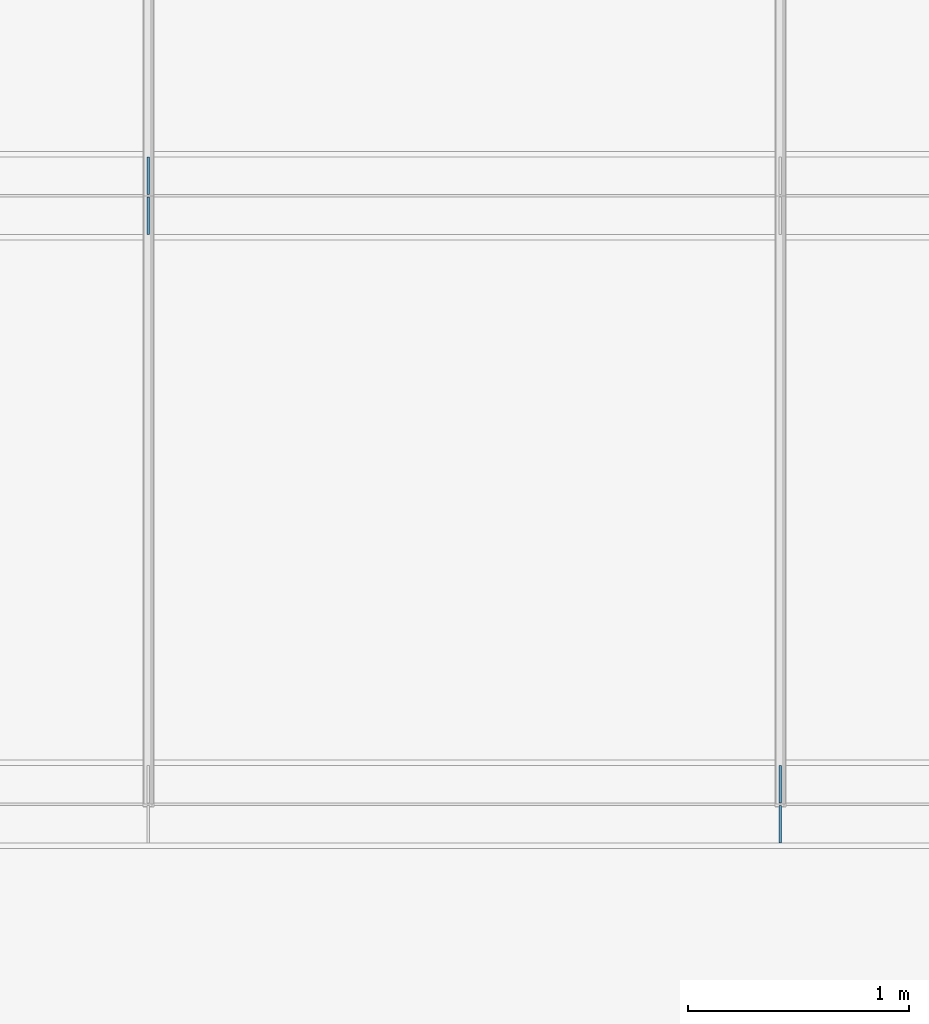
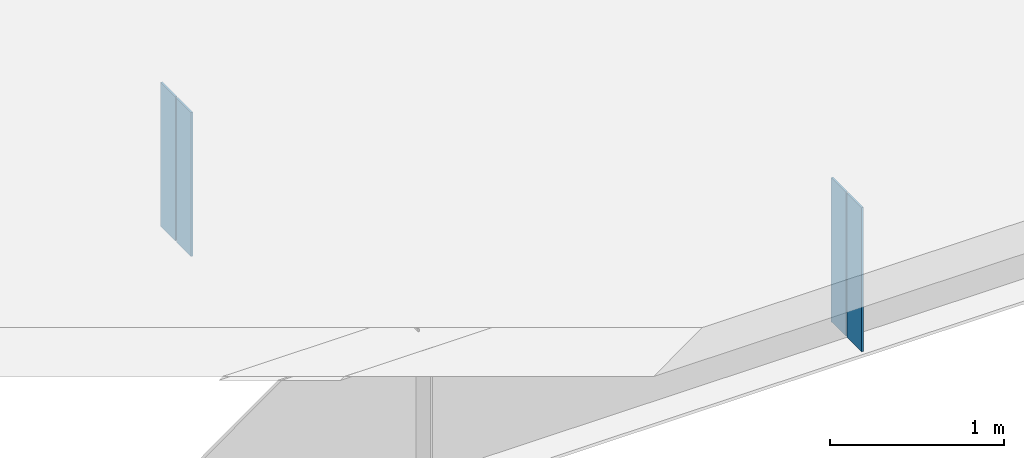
# One storey, part 4 of 12: 4 plates.
"""IFC4 building model written with IfcOpenShell, lengths in metres."""

from ifc_helpers import new_model, si_unit, frame, origin, origin_with_axes, origin_2d_with_axis, place, context, subcontext, project, spatial, rectangle, extrude, element, save


model = new_model("IFC4")

# Units and contexts
model_context = context("Model", 3, precision=1e-05, world=origin())
body_context = subcontext(model_context, "Body", "Model", "MODEL_VIEW")
ifc_project = project(units=[si_unit("LENGTHUNIT", "METRE"), si_unit("AREAUNIT", "SQUARE_METRE"), si_unit("VOLUMEUNIT", "CUBIC_METRE"), si_unit("PLANEANGLEUNIT", "RADIAN")], contexts=[model_context])

# Site, building, storey
site_placement = place(None, origin_with_axes())
site = spatial("IfcSite", under=ifc_project, at=site_placement, Name="Default Site")
building_placement = place(site_placement, origin_with_axes())
building = spatial("IfcBuilding", under=site, at=building_placement, Name="Bridge Structure")
storey_placement = place(building_placement, origin_with_axes())
storey = spatial("IfcBuildingStorey", under=building, at=storey_placement, Name="Superstructure")

# Plates
for number, where, z_axis, x_axis, name in (
    (1, (11.428, -4.0345, -0.505), (0.0, 0.0, 1.0), (1.0, 0.0, 0.0), "Intermediate Stiffener 1"),
    (2, (11.428, -4.2155000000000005, -0.505), (0.0, 0.0, 1.0), (1.0, 0.0, 0.0), "Intermediate Stiffener 1"),
    (3, (8.571, -1.2845, -0.505), (0.0, 0.0, 1.0), (1.0, 0.0, 0.0), "Intermediate Stiffener 2"),
    (4, (8.571, -1.4655, -0.505), (0.0, 0.0, 1.0), (1.0, 0.0, 0.0), "Intermediate Stiffener 2"),
):
    element("IfcPlate", number, at=place(storey_placement, frame(where, z_axis=z_axis, x_axis=x_axis)), inside=storey, Name=name, context=body_context, shape_type="SweptSolid", body=[
        extrude(rectangle(XDim=0.012, YDim=0.169, at=origin_2d_with_axis()), origin_with_axes(), (0.0, 0.0, 1.0), 1.01),
    ])

save(model, "model.ifc")
